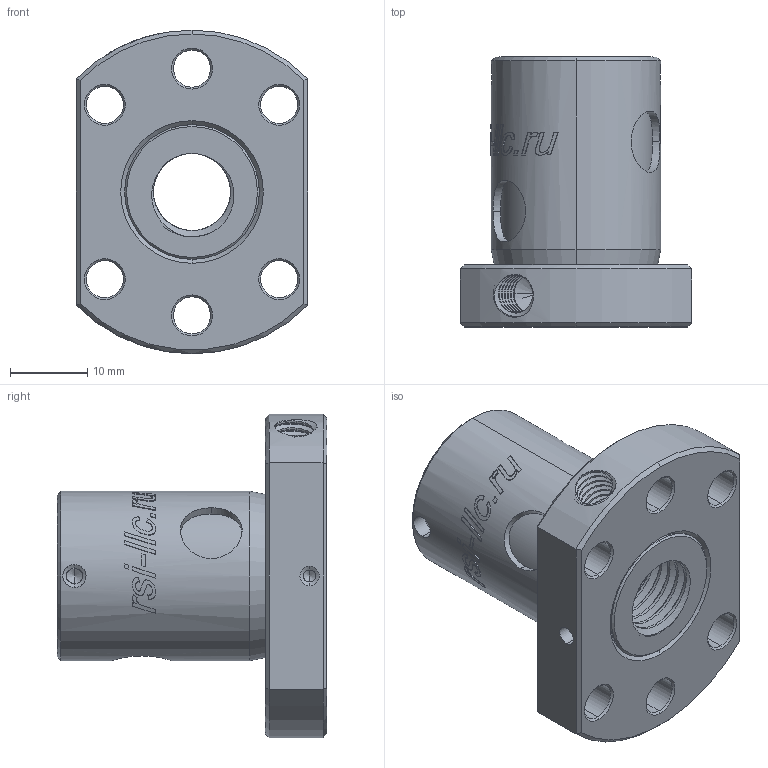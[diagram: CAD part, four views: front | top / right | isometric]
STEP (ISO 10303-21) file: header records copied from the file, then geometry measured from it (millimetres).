
FILE_DESCRIPTION (( 'STEP AP214' ), '1' );
FILE_NAME ('SFU 1204-3.STEP', '2020-10-15T05:54:26', ( '' ), ( '' ), 'SwSTEP 2.0', 'SolidWorks 2018', '' );
FILE_SCHEMA (( 'AUTOMOTIVE_DESIGN' ));
Length unit declared in the file: millimetre
Products named in the file (1): SFU 1204-3
Bounding box: 30 x 35 x 42 mm (x, y, z)
Volume: 14790.5 mm3; surface area: 11544.2 mm2
Topology: 2 solids, 2 shells, 284 faces, 729 edges, 459 vertices
Faces by surface type: cylinder 107, bspline 74, cone 60, plane 35, torus 8
Entity records: 27431 total; most frequent: CARTESIAN_POINT 20414, ORIENTED_EDGE 1438, DIRECTION 918, EDGE_CURVE 719, VERTEX_POINT 459, AXIS2_PLACEMENT_3D 378, EDGE_LOOP 328, B_SPLINE_CURVE_WITH_KNOTS 312
